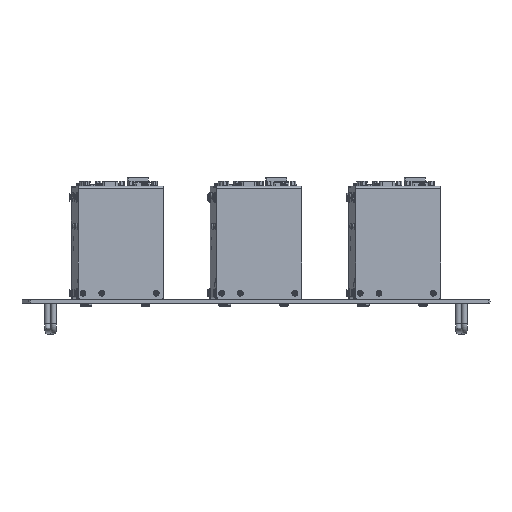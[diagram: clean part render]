
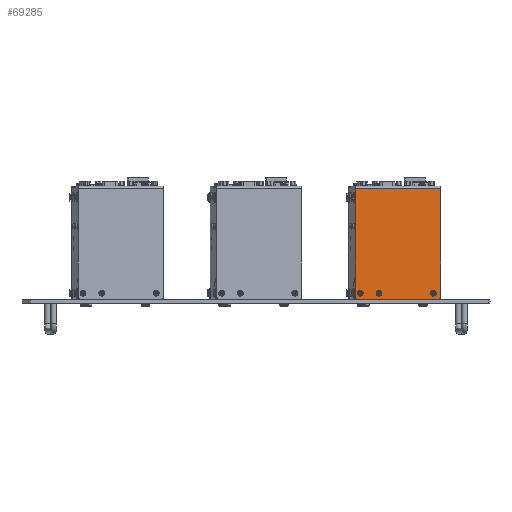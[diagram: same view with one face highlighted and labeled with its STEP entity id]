
A CAD part, front view. The second image highlights one B-rep face of the part: STEP entity #69285.
In plain terms, the highlighted planar face has unit normal (0.084, -0.997, 0).
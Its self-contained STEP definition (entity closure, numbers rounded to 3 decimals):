
#6822=LINE('',#116277,#12248);
#6824=LINE('',#116281,#12250);
#6825=LINE('',#116285,#12251);
#6826=LINE('',#116286,#12252);
#12248=VECTOR('',#94871,1.655);
#12250=VECTOR('',#94875,10.);
#12251=VECTOR('',#94878,1.655);
#12252=VECTOR('',#94879,10.);
#13635=FACE_BOUND('',#22047,.T.);
#13636=FACE_BOUND('',#22048,.T.);
#13637=FACE_BOUND('',#22049,.T.);
#17477=FACE_OUTER_BOUND('',#22046,.T.);
#22046=EDGE_LOOP('',(#57830,#57831,#57832,#57833,#57834,#57835));
#22047=EDGE_LOOP('',(#57836,#57837));
#22048=EDGE_LOOP('',(#57838,#57839));
#22049=EDGE_LOOP('',(#57840,#57841));
#25072=CIRCLE('',#76124,2.5);
#25073=CIRCLE('',#76127,2.5);
#25074=CIRCLE('',#76128,3.);
#25075=CIRCLE('',#76129,3.);
#25076=CIRCLE('',#76130,3.);
#25077=CIRCLE('',#76131,3.);
#25078=CIRCLE('',#76132,3.);
#25079=CIRCLE('',#76133,3.);
#30672=VERTEX_POINT('',#116270);
#30673=VERTEX_POINT('',#116272);
#30674=VERTEX_POINT('',#116276);
#30675=VERTEX_POINT('',#116280);
#30676=VERTEX_POINT('',#116282);
#30677=VERTEX_POINT('',#116284);
#30678=VERTEX_POINT('',#116287);
#30679=VERTEX_POINT('',#116288);
#30680=VERTEX_POINT('',#116291);
#30681=VERTEX_POINT('',#116292);
#30682=VERTEX_POINT('',#116295);
#30683=VERTEX_POINT('',#116296);
#39781=EDGE_CURVE('',#30672,#30673,#25072,.T.);
#39783=EDGE_CURVE('',#30674,#30673,#6822,.T.);
#39785=EDGE_CURVE('',#30672,#30675,#6824,.T.);
#39786=EDGE_CURVE('',#30676,#30675,#25073,.T.);
#39787=EDGE_CURVE('',#30677,#30676,#6825,.T.);
#39788=EDGE_CURVE('',#30677,#30674,#6826,.T.);
#39789=EDGE_CURVE('',#30678,#30679,#25074,.T.);
#39790=EDGE_CURVE('',#30679,#30678,#25075,.T.);
#39791=EDGE_CURVE('',#30680,#30681,#25076,.T.);
#39792=EDGE_CURVE('',#30681,#30680,#25077,.T.);
#39793=EDGE_CURVE('',#30682,#30683,#25078,.T.);
#39794=EDGE_CURVE('',#30683,#30682,#25079,.T.);
#57830=ORIENTED_EDGE('',*,*,#39781,.F.);
#57831=ORIENTED_EDGE('',*,*,#39785,.T.);
#57832=ORIENTED_EDGE('',*,*,#39786,.F.);
#57833=ORIENTED_EDGE('',*,*,#39787,.F.);
#57834=ORIENTED_EDGE('',*,*,#39788,.T.);
#57835=ORIENTED_EDGE('',*,*,#39783,.T.);
#57836=ORIENTED_EDGE('',*,*,#39789,.T.);
#57837=ORIENTED_EDGE('',*,*,#39790,.T.);
#57838=ORIENTED_EDGE('',*,*,#39791,.T.);
#57839=ORIENTED_EDGE('',*,*,#39792,.T.);
#57840=ORIENTED_EDGE('',*,*,#39793,.T.);
#57841=ORIENTED_EDGE('',*,*,#39794,.T.);
#61365=PLANE('',#76126);
#69285=ADVANCED_FACE('',(#17477,#13635,#13636,#13637),#61365,.T.);
#76124=AXIS2_PLACEMENT_3D('',#116273,#94866,#94867);
#76126=AXIS2_PLACEMENT_3D('',#116279,#94873,#94874);
#76127=AXIS2_PLACEMENT_3D('',#116283,#94876,#94877);
#76128=AXIS2_PLACEMENT_3D('',#116289,#94880,#94881);
#76129=AXIS2_PLACEMENT_3D('',#116290,#94882,#94883);
#76130=AXIS2_PLACEMENT_3D('',#116293,#94884,#94885);
#76131=AXIS2_PLACEMENT_3D('',#116294,#94886,#94887);
#76132=AXIS2_PLACEMENT_3D('',#116297,#94888,#94889);
#76133=AXIS2_PLACEMENT_3D('',#116298,#94890,#94891);
#94866=DIRECTION('center_axis',(-0.084,0.996,0.));
#94867=DIRECTION('ref_axis',(-0.705,-0.06,-0.707));
#94871=DIRECTION('',(0.,0.,-1.));
#94873=DIRECTION('center_axis',(0.084,-0.996,0.));
#94874=DIRECTION('ref_axis',(0.,0.,
-1.));
#94875=DIRECTION('',(0.996,0.084,0.));
#94876=DIRECTION('center_axis',(-0.084,0.996,0.));
#94877=DIRECTION('ref_axis',(0.705,0.06,-0.707));
#94878=DIRECTION('',(0.,0.,-1.));
#94879=DIRECTION('',(-0.996,-0.084,0.));
#94880=DIRECTION('center_axis',(-0.084,0.996,0.));
#94881=DIRECTION('ref_axis',(0.,0.,
-1.));
#94882=DIRECTION('center_axis',(-0.084,0.996,0.));
#94883=DIRECTION('ref_axis',(0.,0.,
-1.));
#94884=DIRECTION('center_axis',(-0.084,0.996,0.));
#94885=DIRECTION('ref_axis',(0.,0.,
-1.));
#94886=DIRECTION('center_axis',(-0.084,0.996,0.));
#94887=DIRECTION('ref_axis',(0.,0.,
-1.));
#94888=DIRECTION('center_axis',(-0.084,0.996,0.));
#94889=DIRECTION('ref_axis',(0.,0.,
-1.));
#94890=DIRECTION('center_axis',(-0.084,0.996,0.));
#94891=DIRECTION('ref_axis',(0.,0.,
-1.));
#116270=CARTESIAN_POINT('',(250.375,-75.001,-116.5));
#116272=CARTESIAN_POINT('',(247.884,-75.212,-114.));
#116273=CARTESIAN_POINT('Origin',(250.375,-75.001,-114.));
#116276=CARTESIAN_POINT('',(247.884,-75.212,-1.));
#116277=CARTESIAN_POINT('',(247.884,-75.212,4.2));
#116279=CARTESIAN_POINT('Origin',(292.227,-71.467,-57.45));
#116280=CARTESIAN_POINT('',(334.078,-67.933,-116.5));
#116281=CARTESIAN_POINT('',(247.884,-75.212,-116.5));
#116282=CARTESIAN_POINT('',(336.569,-67.722,-114.));
#116283=CARTESIAN_POINT('Origin',(334.078,-67.933,-114.));
#116284=CARTESIAN_POINT('',(336.569,-67.722,-1.));
#116285=CARTESIAN_POINT('',(336.569,-67.722,4.2));
#116286=CARTESIAN_POINT('',(292.227,-71.467,-1.));
#116287=CARTESIAN_POINT('',(272.297,-73.15,-113.));
#116288=CARTESIAN_POINT('',(272.297,-73.15,-107.));
#116289=CARTESIAN_POINT('Origin',(272.297,-73.15,-110.));
#116290=CARTESIAN_POINT('Origin',(272.297,-73.15,-110.));
#116291=CARTESIAN_POINT('',(329.095,-68.354,-113.));
#116292=CARTESIAN_POINT('',(329.095,-68.354,-107.));
#116293=CARTESIAN_POINT('Origin',(329.095,-68.354,-110.));
#116294=CARTESIAN_POINT('Origin',(329.095,-68.354,-110.));
#116295=CARTESIAN_POINT('',(252.867,-74.791,-113.));
#116296=CARTESIAN_POINT('',(252.867,-74.791,-107.));
#116297=CARTESIAN_POINT('Origin',(252.867,-74.791,-110.));
#116298=CARTESIAN_POINT('Origin',(252.867,-74.791,-110.));
